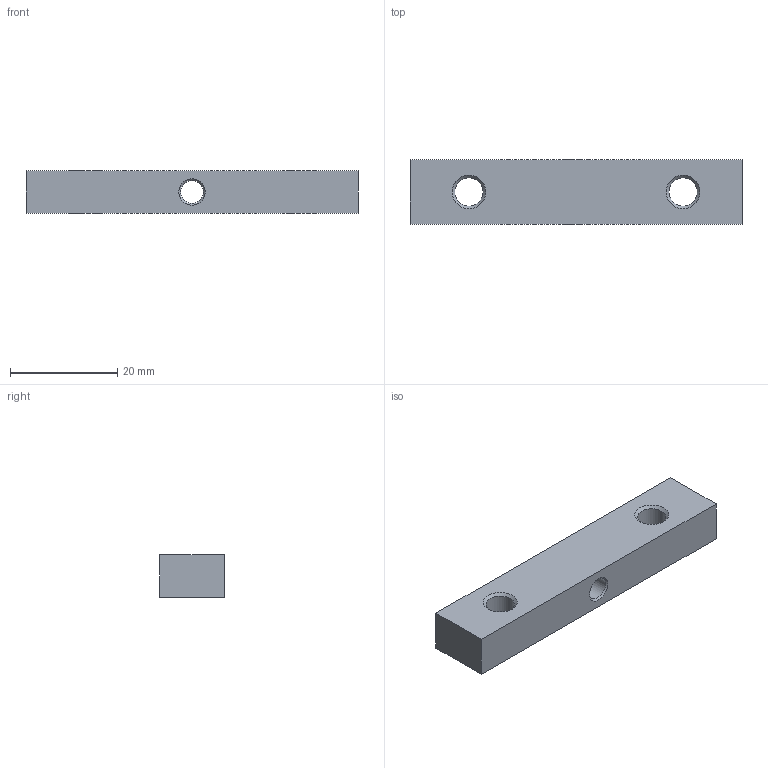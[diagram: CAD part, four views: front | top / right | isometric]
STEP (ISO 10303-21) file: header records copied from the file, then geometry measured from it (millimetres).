
FILE_DESCRIPTION(/* description */ (''),/* implementation_level */ '2;1');
FILE_NAME(/* name */ '2020TOMO-CRIMP.15.stp',/* time_stamp */ '2021-01-20T14:53:45+01:00',/* author */ (''),/* organization */ (''),/* preprocessor_version */ 'ST-DEVELOPER v16.7',/* originating_system */ 'SIEMENS PLM Software NX 1892',/* authorisation */ '');
FILE_SCHEMA (('AUTOMOTIVE_DESIGN { 1 0 10303 214 3 1 1 1 }'));
Length unit declared in the file: millimetre
Products named in the file (1): turc131041948iua
Bounding box: 62 x 12 x 8 mm (x, y, z)
Volume: 5414.6 mm3; surface area: 2960.5 mm2
Topology: 1 solids, 1 shells, 15 faces, 35 edges, 22 vertices
Faces by surface type: plane 6, cone 6, cylinder 3
Full cylindrical faces by diameter (mm): 4.3 x1, 5.3 x2
Entity records: 410 total; most frequent: DIRECTION 68, CARTESIAN_POINT 60, ORIENTED_EDGE 48, EDGE_LOOP 30, FACE_BOUND 28, AXIS2_PLACEMENT_3D 28, EDGE_CURVE 24, VERTEX_POINT 20
